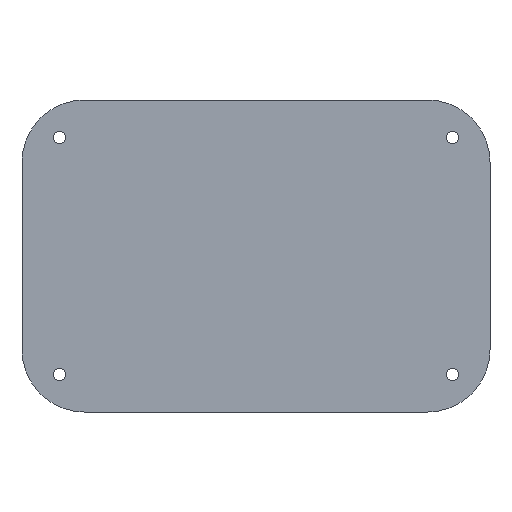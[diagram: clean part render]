
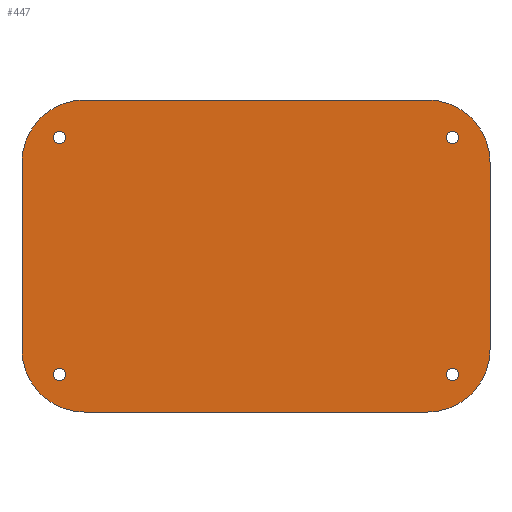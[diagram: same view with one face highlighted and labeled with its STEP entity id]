
A CAD part, front view. The second image highlights one B-rep face of the part: STEP entity #447.
In plain terms, the highlighted planar face has unit normal (0, -1, 0).
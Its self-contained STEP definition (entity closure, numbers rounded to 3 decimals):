
#1 = AXIS2_PLACEMENT_3D ( 'NONE', #501, #266, #311 ) ;
#3 = DIRECTION ( 'NONE',  ( 0., 1., 0. ) ) ;
#7 = EDGE_CURVE ( 'NONE', #516, #140, #142, .T. ) ;
#9 = CIRCLE ( 'NONE', #171, 2. ) ;
#10 = ORIENTED_EDGE ( 'NONE', *, *, #520, .F. ) ;
#11 = DIRECTION ( 'NONE',  ( -1., 0., 0. ) ) ;
#12 = EDGE_LOOP ( 'NONE', ( #337, #458 ) ) ;
#19 = DIRECTION ( 'NONE',  ( 0., 0., 1. ) ) ;
#25 = VERTEX_POINT ( 'NONE', #285 ) ;
#32 = CARTESIAN_POINT ( 'NONE',  ( 55., 0., 50. ) ) ;
#33 = DIRECTION ( 'NONE',  ( 0., 1., 0. ) ) ;
#34 = ORIENTED_EDGE ( 'NONE', *, *, #541, .F. ) ;
#42 = DIRECTION ( 'NONE',  ( 0., 0., 1. ) ) ;
#55 = CIRCLE ( 'NONE', #440, 2. ) ;
#65 = LINE ( 'NONE', #604, #326 ) ;
#70 = DIRECTION ( 'NONE',  ( 0., -1., 0. ) ) ;
#71 = DIRECTION ( 'NONE',  ( 0., 0., 1. ) ) ;
#74 = DIRECTION ( 'NONE',  ( 0., 0., -1. ) ) ;
#76 = CARTESIAN_POINT ( 'NONE',  ( -63., 0., -36. ) ) ;
#77 = AXIS2_PLACEMENT_3D ( 'NONE', #550, #260, #365 ) ;
#84 = EDGE_LOOP ( 'NONE', ( #10, #124, #34, #548, #112, #322, #115, #607 ) ) ;
#85 = EDGE_CURVE ( 'NONE', #601, #546, #595, .T. ) ;
#90 = CARTESIAN_POINT ( 'NONE',  ( 75., 0., -30. ) ) ;
#100 = DIRECTION ( 'NONE',  ( 0., 1., 0. ) ) ;
#109 = AXIS2_PLACEMENT_3D ( 'NONE', #126, #70, #19 ) ;
#112 = ORIENTED_EDGE ( 'NONE', *, *, #313, .F. ) ;
#114 = DIRECTION ( 'NONE',  ( 0., 0., 1. ) ) ;
#115 = ORIENTED_EDGE ( 'NONE', *, *, #85, .F. ) ;
#124 = ORIENTED_EDGE ( 'NONE', *, *, #7, .F. ) ;
#126 = CARTESIAN_POINT ( 'NONE',  ( 63., 0., 38. ) ) ;
#135 = VERTEX_POINT ( 'NONE', #378 ) ;
#139 = CARTESIAN_POINT ( 'NONE',  ( -63., 0., 40. ) ) ;
#140 = VERTEX_POINT ( 'NONE', #273 ) ;
#141 = FACE_BOUND ( 'NONE', #472, .T. ) ;
#142 = LINE ( 'NONE', #423, #316 ) ;
#145 = CIRCLE ( 'NONE', #545, 20. ) ;
#147 = CIRCLE ( 'NONE', #109, 2. ) ;
#150 = DIRECTION ( 'NONE',  ( 0., 0., 1. ) ) ;
#160 = VERTEX_POINT ( 'NONE', #139 ) ;
#161 = CARTESIAN_POINT ( 'NONE',  ( -63., 0., 38. ) ) ;
#164 = DIRECTION ( 'NONE',  ( 0., 1., 0. ) ) ;
#171 = AXIS2_PLACEMENT_3D ( 'NONE', #479, #224, #71 ) ;
#173 = ORIENTED_EDGE ( 'NONE', *, *, #217, .F. ) ;
#179 = FACE_OUTER_BOUND ( 'NONE', #84, .T. ) ;
#183 = EDGE_CURVE ( 'NONE', #242, #500, #9, .T. ) ;
#198 = AXIS2_PLACEMENT_3D ( 'NONE', #245, #390, #246 ) ;
#201 = CARTESIAN_POINT ( 'NONE',  ( -63., 0., -38. ) ) ;
#202 = CARTESIAN_POINT ( 'NONE',  ( -75., 0., -30. ) ) ;
#217 = EDGE_CURVE ( 'NONE', #500, #242, #147, .T. ) ;
#218 = EDGE_CURVE ( 'NONE', #455, #160, #464, .T. ) ;
#221 = CIRCLE ( 'NONE', #77, 20. ) ;
#224 = DIRECTION ( 'NONE',  ( 0., -1., 0. ) ) ;
#227 = DIRECTION ( 'NONE',  ( 0., 1., 0. ) ) ;
#242 = VERTEX_POINT ( 'NONE', #317 ) ;
#243 = EDGE_CURVE ( 'NONE', #25, #325, #65, .T. ) ;
#244 = AXIS2_PLACEMENT_3D ( 'NONE', #567, #227, #441 ) ;
#245 = CARTESIAN_POINT ( 'NONE',  ( 63., 0., -38. ) ) ;
#246 = DIRECTION ( 'NONE',  ( 0., 0., 1. ) ) ;
#248 = CARTESIAN_POINT ( 'NONE',  ( -55., 0., -30. ) ) ;
#256 = DIRECTION ( 'NONE',  ( 0., 0., 1. ) ) ;
#260 = DIRECTION ( 'NONE',  ( 0., 1., 0. ) ) ;
#262 = CARTESIAN_POINT ( 'NONE',  ( 63., 0., -38. ) ) ;
#266 = DIRECTION ( 'NONE',  ( 0., 1., 0. ) ) ;
#267 = AXIS2_PLACEMENT_3D ( 'NONE', #248, #100, #345 ) ;
#270 = CIRCLE ( 'NONE', #388, 2. ) ;
#272 = VERTEX_POINT ( 'NONE', #611 ) ;
#273 = CARTESIAN_POINT ( 'NONE',  ( -75., 0., 30. ) ) ;
#280 = LINE ( 'NONE', #90, #636 ) ;
#282 = DIRECTION ( 'NONE',  ( 0., 0., 1. ) ) ;
#283 = AXIS2_PLACEMENT_3D ( 'NONE', #418, #527, #42 ) ;
#285 = CARTESIAN_POINT ( 'NONE',  ( 55., 0., -50. ) ) ;
#290 = EDGE_CURVE ( 'NONE', #160, #455, #270, .T. ) ;
#297 = DIRECTION ( 'NONE',  ( 0., 0., 1. ) ) ;
#304 = ORIENTED_EDGE ( 'NONE', *, *, #183, .F. ) ;
#311 = DIRECTION ( 'NONE',  ( 0., 0., 1. ) ) ;
#313 = EDGE_CURVE ( 'NONE', #272, #25, #221, .T. ) ;
#316 = VECTOR ( 'NONE', #372, 1000. ) ;
#317 = CARTESIAN_POINT ( 'NONE',  ( 63., 0., 40. ) ) ;
#320 = AXIS2_PLACEMENT_3D ( 'NONE', #201, #538, #297 ) ;
#322 = ORIENTED_EDGE ( 'NONE', *, *, #393, .F. ) ;
#325 = VERTEX_POINT ( 'NONE', #559 ) ;
#326 = VECTOR ( 'NONE', #11, 1000. ) ;
#332 = ORIENTED_EDGE ( 'NONE', *, *, #489, .F. ) ;
#337 = ORIENTED_EDGE ( 'NONE', *, *, #290, .T. ) ;
#338 = EDGE_CURVE ( 'NONE', #135, #578, #55, .T. ) ;
#345 = DIRECTION ( 'NONE',  ( 0., 0., -1. ) ) ;
#349 = CARTESIAN_POINT ( 'NONE',  ( -55., 0., 50. ) ) ;
#352 = VERTEX_POINT ( 'NONE', #557 ) ;
#365 = DIRECTION ( 'NONE',  ( 0., 0., -1. ) ) ;
#371 = PLANE ( 'NONE',  #244 ) ;
#372 = DIRECTION ( 'NONE',  ( 0., 0., 1. ) ) ;
#378 = CARTESIAN_POINT ( 'NONE',  ( 63., 0., -36. ) ) ;
#379 = ORIENTED_EDGE ( 'NONE', *, *, #338, .T. ) ;
#386 = CARTESIAN_POINT ( 'NONE',  ( 75., 0., 30. ) ) ;
#388 = AXIS2_PLACEMENT_3D ( 'NONE', #161, #515, #256 ) ;
#390 = DIRECTION ( 'NONE',  ( 0., 1., 0. ) ) ;
#393 = EDGE_CURVE ( 'NONE', #546, #272, #280, .T. ) ;
#413 = CIRCLE ( 'NONE', #267, 20. ) ;
#418 = CARTESIAN_POINT ( 'NONE',  ( -63., 0., -38. ) ) ;
#420 = ORIENTED_EDGE ( 'NONE', *, *, #561, .F. ) ;
#422 = FACE_BOUND ( 'NONE', #12, .T. ) ;
#423 = CARTESIAN_POINT ( 'NONE',  ( -75., 0., -30. ) ) ;
#428 = DIRECTION ( 'NONE',  ( 1., 0., 0. ) ) ;
#432 = LINE ( 'NONE', #478, #496 ) ;
#436 = ORIENTED_EDGE ( 'NONE', *, *, #507, .T. ) ;
#440 = AXIS2_PLACEMENT_3D ( 'NONE', #262, #164, #114 ) ;
#441 = DIRECTION ( 'NONE',  ( 0., 0., 1. ) ) ;
#447 = ADVANCED_FACE ( 'NONE', ( #141, #422, #521, #621, #179 ), #371, .F. ) ;
#455 = VERTEX_POINT ( 'NONE', #589 ) ;
#458 = ORIENTED_EDGE ( 'NONE', *, *, #218, .T. ) ;
#464 = CIRCLE ( 'NONE', #1, 2. ) ;
#470 = EDGE_LOOP ( 'NONE', ( #304, #173 ) ) ;
#472 = EDGE_LOOP ( 'NONE', ( #420, #332 ) ) ;
#475 = EDGE_LOOP ( 'NONE', ( #379, #436 ) ) ;
#478 = CARTESIAN_POINT ( 'NONE',  ( -55., 0., 50. ) ) ;
#479 = CARTESIAN_POINT ( 'NONE',  ( 63., 0., 38. ) ) ;
#489 = EDGE_CURVE ( 'NONE', #352, #606, #598, .T. ) ;
#496 = VECTOR ( 'NONE', #428, 1000. ) ;
#500 = VERTEX_POINT ( 'NONE', #534 ) ;
#501 = CARTESIAN_POINT ( 'NONE',  ( -63., 0., 38. ) ) ;
#507 = EDGE_CURVE ( 'NONE', #578, #135, #535, .T. ) ;
#515 = DIRECTION ( 'NONE',  ( 0., 1., 0. ) ) ;
#516 = VERTEX_POINT ( 'NONE', #202 ) ;
#520 = EDGE_CURVE ( 'NONE', #140, #531, #145, .T. ) ;
#521 = FACE_BOUND ( 'NONE', #470, .T. ) ;
#527 = DIRECTION ( 'NONE',  ( 0., -1., 0. ) ) ;
#531 = VERTEX_POINT ( 'NONE', #349 ) ;
#534 = CARTESIAN_POINT ( 'NONE',  ( 63., 0., 36. ) ) ;
#535 = CIRCLE ( 'NONE', #198, 2. ) ;
#538 = DIRECTION ( 'NONE',  ( 0., -1., 0. ) ) ;
#541 = EDGE_CURVE ( 'NONE', #325, #516, #413, .T. ) ;
#545 = AXIS2_PLACEMENT_3D ( 'NONE', #591, #3, #150 ) ;
#546 = VERTEX_POINT ( 'NONE', #386 ) ;
#548 = ORIENTED_EDGE ( 'NONE', *, *, #243, .F. ) ;
#550 = CARTESIAN_POINT ( 'NONE',  ( 55., 0., -30. ) ) ;
#554 = CIRCLE ( 'NONE', #283, 2. ) ;
#557 = CARTESIAN_POINT ( 'NONE',  ( -63., 0., -40. ) ) ;
#559 = CARTESIAN_POINT ( 'NONE',  ( -55., 0., -50. ) ) ;
#561 = EDGE_CURVE ( 'NONE', #606, #352, #554, .T. ) ;
#567 = CARTESIAN_POINT ( 'NONE',  ( -55., 0., 30. ) ) ;
#569 = CARTESIAN_POINT ( 'NONE',  ( 63., 0., -40. ) ) ;
#578 = VERTEX_POINT ( 'NONE', #569 ) ;
#582 = CARTESIAN_POINT ( 'NONE',  ( 55., 0., 30. ) ) ;
#589 = CARTESIAN_POINT ( 'NONE',  ( -63., 0., 36. ) ) ;
#591 = CARTESIAN_POINT ( 'NONE',  ( -55., 0., 30. ) ) ;
#595 = CIRCLE ( 'NONE', #619, 20. ) ;
#598 = CIRCLE ( 'NONE', #320, 2. ) ;
#601 = VERTEX_POINT ( 'NONE', #32 ) ;
#604 = CARTESIAN_POINT ( 'NONE',  ( -55., 0., -50. ) ) ;
#606 = VERTEX_POINT ( 'NONE', #76 ) ;
#607 = ORIENTED_EDGE ( 'NONE', *, *, #613, .F. ) ;
#611 = CARTESIAN_POINT ( 'NONE',  ( 75., 0., -30. ) ) ;
#613 = EDGE_CURVE ( 'NONE', #531, #601, #432, .T. ) ;
#619 = AXIS2_PLACEMENT_3D ( 'NONE', #582, #33, #282 ) ;
#621 = FACE_BOUND ( 'NONE', #475, .T. ) ;
#636 = VECTOR ( 'NONE', #74, 1000. ) ;
